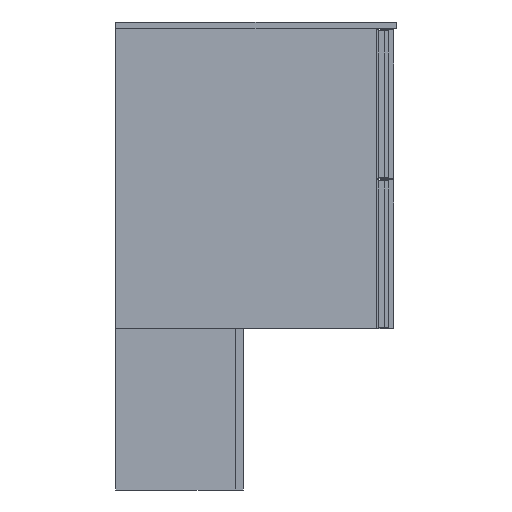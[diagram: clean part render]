
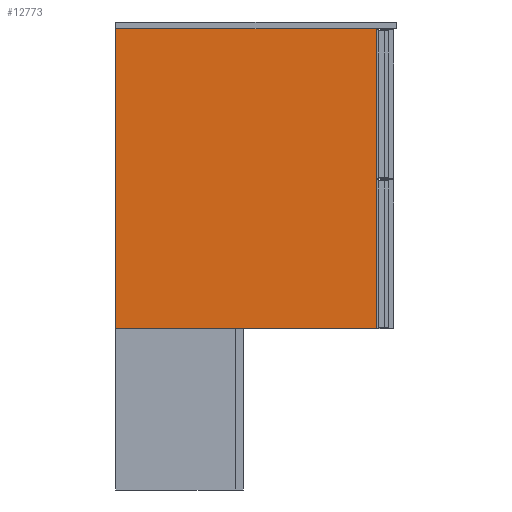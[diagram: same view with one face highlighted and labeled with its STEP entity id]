
A CAD part, left-side view. The second image highlights one B-rep face of the part: STEP entity #12773.
In plain terms, the highlighted planar face has unit normal (-1, 0, 0).
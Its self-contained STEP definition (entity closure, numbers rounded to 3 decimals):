
#168 = CARTESIAN_POINT ( 'NONE',  ( 4768.569, -6403.259, 0. ) ) ;
#247 = EDGE_CURVE ( 'NONE', #9717, #12538, #1763, .T. ) ;
#1216 = EDGE_LOOP ( 'NONE', ( #14376, #1622, #10555, #11522 ) ) ;
#1449 = VERTEX_POINT ( 'NONE', #10686 ) ;
#1622 = ORIENTED_EDGE ( 'NONE', *, *, #247, .F. ) ;
#1628 = CARTESIAN_POINT ( 'NONE',  ( 4768.569, -6638.259, 540. ) ) ;
#1763 = LINE ( 'NONE', #6501, #6444 ) ;
#2266 = CARTESIAN_POINT ( 'NONE',  ( 4768.569, -6638.259, 270. ) ) ;
#3772 = FACE_OUTER_BOUND ( 'NONE', #1216, .T. ) ;
#4072 = DIRECTION ( 'NONE',  ( 1., 0., 0. ) ) ;
#4464 = CARTESIAN_POINT ( 'NONE',  ( 4768.569, -6168.259, 0. ) ) ;
#4804 = LINE ( 'NONE', #12942, #11847 ) ;
#5372 = DIRECTION ( 'NONE',  ( 0., 0., 1. ) ) ;
#6444 = VECTOR ( 'NONE', #5372, 1000. ) ;
#6501 = CARTESIAN_POINT ( 'NONE',  ( 4768.569, -6168.259, 270. ) ) ;
#7034 = CARTESIAN_POINT ( 'NONE',  ( 4768.569, -6168.259, 540. ) ) ;
#7610 = PLANE ( 'NONE',  #9427 ) ;
#7983 = LINE ( 'NONE', #2266, #12788 ) ;
#9123 = VERTEX_POINT ( 'NONE', #1628 ) ;
#9427 = AXIS2_PLACEMENT_3D ( 'NONE', #14712, #4072, #13495 ) ;
#9717 = VERTEX_POINT ( 'NONE', #4464 ) ;
#10555 = ORIENTED_EDGE ( 'NONE', *, *, #11032, .F. ) ;
#10686 = CARTESIAN_POINT ( 'NONE',  ( 4768.569, -6638.259, 0. ) ) ;
#11032 = EDGE_CURVE ( 'NONE', #1449, #9717, #13656, .T. ) ;
#11522 = ORIENTED_EDGE ( 'NONE', *, *, #14568, .F. ) ;
#11727 = DIRECTION ( 'NONE',  ( 0., -1., 0. ) ) ;
#11847 = VECTOR ( 'NONE', #11727, 1000. ) ;
#12524 = DIRECTION ( 'NONE',  ( 0., 1., 0. ) ) ;
#12538 = VERTEX_POINT ( 'NONE', #7034 ) ;
#12741 = DIRECTION ( 'NONE',  ( 0., 0., -1. ) ) ;
#12773 = ADVANCED_FACE ( 'NONE', ( #3772 ), #7610, .F. ) ;
#12788 = VECTOR ( 'NONE', #12741, 1000. ) ;
#12942 = CARTESIAN_POINT ( 'NONE',  ( 4768.569, -6403.259, 540. ) ) ;
#13495 = DIRECTION ( 'NONE',  ( 0., 0., -1. ) ) ;
#13622 = EDGE_CURVE ( 'NONE', #12538, #9123, #4804, .T. ) ;
#13656 = LINE ( 'NONE', #168, #14776 ) ;
#14376 = ORIENTED_EDGE ( 'NONE', *, *, #13622, .F. ) ;
#14568 = EDGE_CURVE ( 'NONE', #9123, #1449, #7983, .T. ) ;
#14712 = CARTESIAN_POINT ( 'NONE',  ( 4768.569, -6403.259, 270. ) ) ;
#14776 = VECTOR ( 'NONE', #12524, 1000. ) ;
